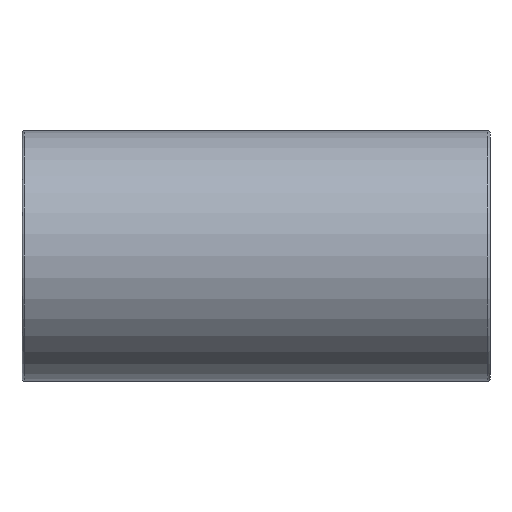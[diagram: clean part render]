
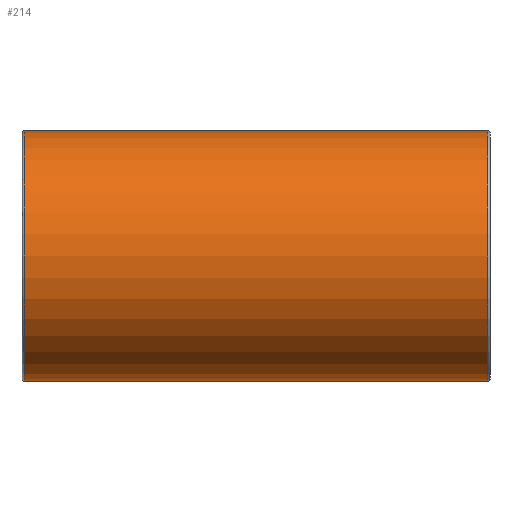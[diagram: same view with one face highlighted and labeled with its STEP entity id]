
A CAD part, front view. The second image highlights one B-rep face of the part: STEP entity #214.
In plain terms, the highlighted cylindrical face has radius 38.5 mm (diameter 77 mm), a full revolution.
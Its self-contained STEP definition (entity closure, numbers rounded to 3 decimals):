
#27=B_SPLINE_CURVE_WITH_KNOTS('',3,(#355,#356,#357,#358,#359,#360,#361,
#362,#363,#364,#365,#366,#367,#368,#369,#370,#371,#372,#373,#374,#375,#376,
#377,#378,#379,#380,#381,#382,#383,#384,#385,#386,#387,#388,#389,#390,#391,
#392,#393,#394,#395,#396,#397,#398,#399,#400,#401,#402,#403,#404,#405,#406,
#407,#408,#409,#410,#411,#412,#413,#414,#415,#416,#417,#418,#419,#420),
 .UNSPECIFIED.,.T.,.F.,(4,2,2,2,2,2,2,2,2,2,2,2,2,2,2,2,2,2,2,2,2,2,2,2,
2,2,2,2,2,2,2,2,4),(0.,0.491,0.983,1.474,
1.966,2.453,2.939,3.426,3.913,
4.4,4.886,5.373,5.86,6.351,
6.843,7.334,7.826,8.317,8.809,
9.3,9.792,10.279,10.765,11.252,
11.739,12.226,12.712,13.199,13.686,
14.177,14.669,15.16,15.652),
 .UNSPECIFIED.);
#29=FACE_BOUND('',#70,.T.);
#30=FACE_BOUND('',#71,.T.);
#50=FACE_OUTER_BOUND('',#69,.T.);
#69=EDGE_LOOP('',(#167));
#70=EDGE_LOOP('',(#168));
#71=EDGE_LOOP('',(#169));
#109=CIRCLE('',#236,38.5);
#110=CIRCLE('',#237,38.5);
#127=VERTEX_POINT('',#350);
#128=VERTEX_POINT('',#352);
#129=VERTEX_POINT('',#354);
#147=EDGE_CURVE('',#127,#127,#109,.T.);
#148=EDGE_CURVE('',#128,#128,#110,.T.);
#149=EDGE_CURVE('',#129,#129,#27,.T.);
#167=ORIENTED_EDGE('',*,*,#147,.F.);
#168=ORIENTED_EDGE('',*,*,#148,.F.);
#169=ORIENTED_EDGE('',*,*,#149,.F.);
#207=CYLINDRICAL_SURFACE('',#235,38.5);
#214=ADVANCED_FACE('',(#50,#29,#30),#207,.T.);
#235=AXIS2_PLACEMENT_3D('',#349,#274,#275);
#236=AXIS2_PLACEMENT_3D('',#351,#276,#277);
#237=AXIS2_PLACEMENT_3D('',#353,#278,#279);
#274=DIRECTION('center_axis',(1.,0.,0.));
#275=DIRECTION('ref_axis',(0.,1.,0.));
#276=DIRECTION('center_axis',(-1.,0.,0.));
#277=DIRECTION('ref_axis',(0.,-1.,0.));
#278=DIRECTION('center_axis',(1.,0.,0.));
#279=DIRECTION('ref_axis',(0.,-1.,0.));
#349=CARTESIAN_POINT('Origin',(0.,0.,
0.));
#350=CARTESIAN_POINT('',(-71.37,38.5,0.));
#351=CARTESIAN_POINT('Origin',(-71.37,0.,0.));
#352=CARTESIAN_POINT('',(71.37,38.5,0.));
#353=CARTESIAN_POINT('Origin',(71.37,0.,0.));
#354=CARTESIAN_POINT('',(0.,29.279,25.));
#355=CARTESIAN_POINT('Ctrl Pts',(0.,29.279,
25.));
#356=CARTESIAN_POINT('Ctrl Pts',(1.638,29.279,25.));
#357=CARTESIAN_POINT('Ctrl Pts',(3.305,29.421,24.837));
#358=CARTESIAN_POINT('Ctrl Pts',(6.576,29.965,24.177));
#359=CARTESIAN_POINT('Ctrl Pts',(8.182,30.366,23.681));
#360=CARTESIAN_POINT('Ctrl Pts',(11.235,31.327,22.395));
#361=CARTESIAN_POINT('Ctrl Pts',(12.685,31.886,21.603));
#362=CARTESIAN_POINT('Ctrl Pts',(15.363,33.043,19.789));
#363=CARTESIAN_POINT('Ctrl Pts',(16.59,33.639,18.766));
#364=CARTESIAN_POINT('Ctrl Pts',(18.755,34.759,16.6));
#365=CARTESIAN_POINT('Ctrl Pts',(19.777,35.324,15.379));
#366=CARTESIAN_POINT('Ctrl Pts',(21.594,36.373,12.7));
#367=CARTESIAN_POINT('Ctrl Pts',(22.391,36.856,11.243));
#368=CARTESIAN_POINT('Ctrl Pts',(23.684,37.655,8.175));
#369=CARTESIAN_POINT('Ctrl Pts',(24.181,37.973,6.561));
#370=CARTESIAN_POINT('Ctrl Pts',(24.839,38.395,3.285));
#371=CARTESIAN_POINT('Ctrl Pts',(25.,38.5,1.623));
#372=CARTESIAN_POINT('Ctrl Pts',(25.,38.5,-1.623));
#373=CARTESIAN_POINT('Ctrl Pts',(24.839,38.395,-3.285));
#374=CARTESIAN_POINT('Ctrl Pts',(24.181,37.973,-6.561));
#375=CARTESIAN_POINT('Ctrl Pts',(23.684,37.655,-8.175));
#376=CARTESIAN_POINT('Ctrl Pts',(22.391,36.856,-11.243));
#377=CARTESIAN_POINT('Ctrl Pts',(21.594,36.373,-12.7));
#378=CARTESIAN_POINT('Ctrl Pts',(19.777,35.324,-15.379));
#379=CARTESIAN_POINT('Ctrl Pts',(18.755,34.759,-16.6));
#380=CARTESIAN_POINT('Ctrl Pts',(16.59,33.639,-18.766));
#381=CARTESIAN_POINT('Ctrl Pts',(15.363,33.043,-19.789));
#382=CARTESIAN_POINT('Ctrl Pts',(12.685,31.886,-21.603));
#383=CARTESIAN_POINT('Ctrl Pts',(11.235,31.327,-22.395));
#384=CARTESIAN_POINT('Ctrl Pts',(8.182,30.366,-23.681));
#385=CARTESIAN_POINT('Ctrl Pts',(6.576,29.965,-24.177));
#386=CARTESIAN_POINT('Ctrl Pts',(3.305,29.421,-24.837));
#387=CARTESIAN_POINT('Ctrl Pts',(1.638,29.279,-25.));
#388=CARTESIAN_POINT('Ctrl Pts',(-1.638,29.279,-25.));
#389=CARTESIAN_POINT('Ctrl Pts',(-3.305,29.421,-24.837));
#390=CARTESIAN_POINT('Ctrl Pts',(-6.576,29.965,-24.177));
#391=CARTESIAN_POINT('Ctrl Pts',(-8.182,30.366,-23.681));
#392=CARTESIAN_POINT('Ctrl Pts',(-11.235,31.327,-22.395));
#393=CARTESIAN_POINT('Ctrl Pts',(-12.685,31.886,-21.603));
#394=CARTESIAN_POINT('Ctrl Pts',(-15.363,33.043,-19.789));
#395=CARTESIAN_POINT('Ctrl Pts',(-16.59,33.639,-18.766));
#396=CARTESIAN_POINT('Ctrl Pts',(-18.755,34.759,-16.6));
#397=CARTESIAN_POINT('Ctrl Pts',(-19.777,35.324,-15.379));
#398=CARTESIAN_POINT('Ctrl Pts',(-21.594,36.373,-12.7));
#399=CARTESIAN_POINT('Ctrl Pts',(-22.391,36.856,-11.243));
#400=CARTESIAN_POINT('Ctrl Pts',(-23.684,37.655,-8.175));
#401=CARTESIAN_POINT('Ctrl Pts',(-24.181,37.973,-6.561));
#402=CARTESIAN_POINT('Ctrl Pts',(-24.839,38.395,-3.285));
#403=CARTESIAN_POINT('Ctrl Pts',(-25.,38.5,-1.623));
#404=CARTESIAN_POINT('Ctrl Pts',(-25.,38.5,1.623));
#405=CARTESIAN_POINT('Ctrl Pts',(-24.839,38.395,3.285));
#406=CARTESIAN_POINT('Ctrl Pts',(-24.181,37.973,6.561));
#407=CARTESIAN_POINT('Ctrl Pts',(-23.684,37.655,8.175));
#408=CARTESIAN_POINT('Ctrl Pts',(-22.391,36.856,11.243));
#409=CARTESIAN_POINT('Ctrl Pts',(-21.594,36.373,12.7));
#410=CARTESIAN_POINT('Ctrl Pts',(-19.777,35.324,15.379));
#411=CARTESIAN_POINT('Ctrl Pts',(-18.755,34.759,16.6));
#412=CARTESIAN_POINT('Ctrl Pts',(-16.59,33.639,18.766));
#413=CARTESIAN_POINT('Ctrl Pts',(-15.363,33.043,19.789));
#414=CARTESIAN_POINT('Ctrl Pts',(-12.685,31.886,21.603));
#415=CARTESIAN_POINT('Ctrl Pts',(-11.235,31.327,22.395));
#416=CARTESIAN_POINT('Ctrl Pts',(-8.182,30.366,23.681));
#417=CARTESIAN_POINT('Ctrl Pts',(-6.576,29.965,24.177));
#418=CARTESIAN_POINT('Ctrl Pts',(-3.305,29.421,24.837));
#419=CARTESIAN_POINT('Ctrl Pts',(-1.638,29.279,25.));
#420=CARTESIAN_POINT('Ctrl Pts',(0.,29.279,
25.));
